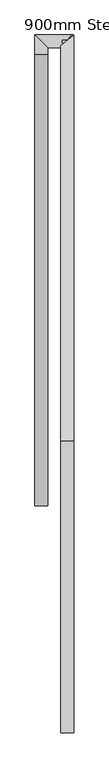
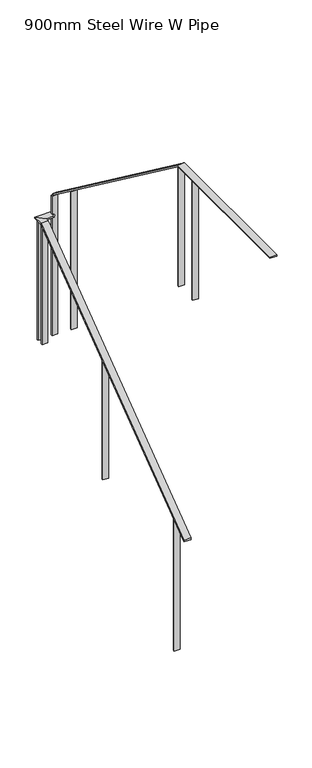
"""IFC4 building model written with IfcOpenShell, lengths in millimetres: railing geometry, 900mm Steel Wire W Pipe."""

from ifc_helpers import new_model, si_unit, frame, origin, place, context, project, spatial, polyline, outline, extrude, faceted_brep, source, transform, mapped, element, save


def railing_900mm_steel_wire_w_pipe_148a66af(model_context):
    return source(origin(), model_context, "Body", "SolidModel", [
        faceted_brep([(-5156.0601801, -7162.6669037, 4392.9066809), (-5206.0601801, -7162.6669037, 4392.9066809), (-5206.0601801, -7162.6669037, 4380.4266524), (-5156.0601801, -7162.6669037, 4380.4266524), (-5156.0601801, -5414.3276371, 5698.3333333), (-5206.0601801, -5414.3276371, 5698.3333333), (-5206.0601801, -5411.0061703, 5688.3333333), (-5156.0601801, -5411.0061703, 5688.3333333), (-5156.0601801, -5387.6669037, 5698.3333333), (-5206.0601801, -5337.6669037, 5698.3333333), (-5206.0601801, -5337.6669037, 5688.3333333), (-5156.0601801, -5387.6669037, 5688.3333333), (-5104.0836318, -5387.6669037, 5698.3333333), (-5098.1007395, -5387.6669037, 5688.3333333), (-5058.0367284, -5337.6669037, 5688.3333333), (-5064.0196207, -5337.6669037, 5698.3333333)], [[[0, 1, 2, 3]], [[1, 0, 4, 5]], [[2, 1, 5, 6]], [[3, 2, 6, 7]], [[0, 3, 7, 4]], [[5, 4, 8, 9]], [[6, 5, 9, 10]], [[7, 6, 10, 11]], [[4, 7, 11, 8]], [[12, 13, 14, 15]], [[9, 8, 12, 15]], [[10, 9, 15, 14]], [[11, 10, 14, 13]], [[8, 11, 13, 12]]]),
        faceted_brep([(-5106.0601801, -5379.7074631, 5861.6302986), (-5056.0601801, -5339.643452, 5831.715837), (-5056.0601801, -5345.6263443, 5823.7030347), (-5106.0601801, -5385.6903554, 5853.6174964), (-5106.0601801, -6911.0061703, 7005.0), (-5056.0601801, -6911.0061703, 7005.0), (-5056.0601801, -6914.3276371, 6995.0), (-5106.0601801, -6914.3276371, 6995.0), (-5106.0601801, -8042.6669037, 7005.0), (-5106.0601801, -8042.6669037, 6995.0), (-5056.0601801, -8042.6669037, 6995.0), (-5056.0601801, -8042.6669037, 7005.0)], [[[0, 1, 2, 3]], [[1, 0, 4, 5]], [[2, 1, 5, 6]], [[3, 2, 6, 7]], [[0, 3, 7, 4]], [[8, 9, 10, 11]], [[5, 4, 8, 11]], [[6, 5, 11, 10]], [[7, 6, 10, 9]], [[4, 7, 9, 8]]]),
        extrude(outline(polyline([(-5061.0601801, -7078.2329414), (-5061.0601801, -7088.2329414), (-5101.0601801, -7088.2329414), (-5101.0601801, -7078.2329414), (-5061.0601801, -7078.2329414)])), frame((0.0, 0.0, 6100.0), z_axis=(0.0, 0.0, 1.0), x_axis=(1.0, 0.0, 0.0)), (0.0, 0.0, 1.0), 895.0),
        extrude(outline(polyline([(-5061.0601801, -5591.6291678), (-5061.0601801, -5601.6291678), (-5101.0601801, -5601.6291678), (-5101.0601801, -5591.6291678), (-5061.0601801, -5591.6291678)])), frame((0.0, 0.0, 4980.0), z_axis=(0.0, 0.0, 1.0), x_axis=(1.0, 0.0, 0.0)), (0.0, 0.0, 1.0), 1031.1184763),
        extrude(outline(polyline([(-5201.0601801, -6160.591432), (-5201.0601801, -6150.591432), (-5161.0601801, -6150.591432), (-5161.0601801, -6160.591432), (-5201.0601801, -6160.591432)])), frame((0.0, 0.0, 4233.3333333), z_axis=(0.0, 0.0, 1.0), x_axis=(1.0, 0.0, 0.0)), (0.0, 0.0, 1.0), 899.0430046),
        extrude(outline(polyline([(-5201.0601801, -7035.591432), (-5201.0601801, -7025.591432), (-5161.0601801, -7025.591432), (-5161.0601801, -7035.591432), (-5201.0601801, -7035.591432)])), frame((0.0, 0.0, 3486.6666667), z_axis=(0.0, 0.0, 1.0), x_axis=(1.0, 0.0, 0.0)), (0.0, 0.0, 1.0), 992.376338),
        extrude(outline(polyline([(-5061.0601801, -6907.6669037), (-5061.0601801, -6917.6669037), (-5101.0601801, -6917.6669037), (-5101.0601801, -6907.6669037), (-5061.0601801, -6907.6669037)])), frame((0.0, 0.0, 6100.0), z_axis=(0.0, 0.0, 1.0), x_axis=(1.0, 0.0, 0.0)), (0.0, 0.0, 1.0), 893.7599858),
        extrude(outline(polyline([(-5061.0601801, -5357.6669037), (-5061.0601801, -5367.6669037), (-5101.0601801, -5367.6669037), (-5101.0601801, -5357.6669037), (-5061.0601801, -5357.6669037)])), frame((0.0, 0.0, 4793.3333333), z_axis=(0.0, 0.0, 1.0), x_axis=(1.0, 0.0, 0.0)), (0.0, 0.0, 1.0), 1043.0933191),
        extrude(outline(polyline([(-5201.0601801, -5367.6669037), (-5201.0601801, -5357.6669037), (-5161.0601801, -5357.6669037), (-5161.0601801, -5367.6669037), (-5201.0601801, -5367.6669037)])), frame((0.0, 0.0, 4793.3333333), z_axis=(0.0, 0.0, 1.0), x_axis=(1.0, 0.0, 0.0)), (0.0, 0.0, 1.0), 895.0),
        extrude(outline(polyline([(-5201.0601801, -5417.6669037), (-5201.0601801, -5407.6669037), (-5161.0601801, -5407.6669037), (-5161.0601801, -5417.6669037), (-5201.0601801, -5417.6669037)])), frame((0.0, 0.0, 4793.3333333), z_axis=(0.0, 0.0, 1.0), x_axis=(1.0, 0.0, 0.0)), (0.0, 0.0, 1.0), 893.7599858),
    ])


if __name__ == "__main__":
    model = new_model("IFC4")
    model_context = context("Model", 3, world=origin())
    ifc_project = project(units=[si_unit("LENGTHUNIT", "METRE", prefix="MILLI")], contexts=[model_context])
    site = spatial("IfcSite", under=ifc_project)
    building = spatial("IfcBuilding", under=site)
    placement = place(None, origin())
    railing_900mm_steel_wire_w_pipe_shape = railing_900mm_steel_wire_w_pipe_148a66af(model_context)
    element("IfcRailing", 1, ObjectType="900mm Steel Wire W Pipe", at=placement, inside=building, context=model_context, shape_type="MappedRepresentation", body=[
        mapped(railing_900mm_steel_wire_w_pipe_shape, transform((0.0, 0.0, 0.0), x_axis=(1.0, 0.0, 0.0), y_axis=(0.0, 1.0, 0.0), z_axis=(0.0, 0.0, 1.0))),
    ])
    save(model, "model.ifc")
